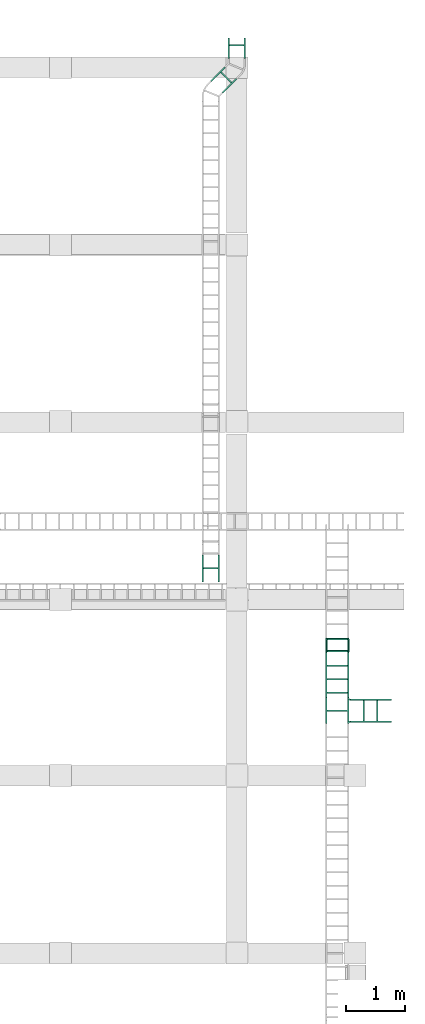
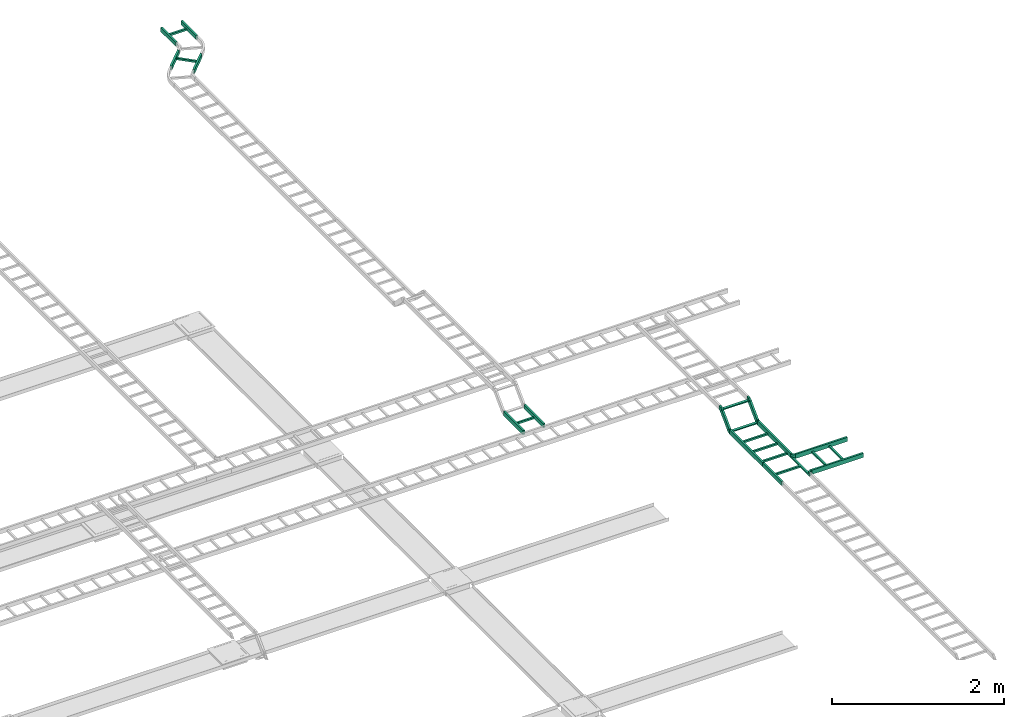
# One storey, part 15 of 16: 6 flow segments, 3 flow fittings.
"""IFC2X3 building model written with IfcOpenShell, lengths in millimetres."""

from ifc_helpers import new_model, entity, si_unit, converted_unit, derived_unit, direction, frame, origin_with_axes, place, context, subcontext, project, spatial, open_shell, surface_model, source, transform, mapped, type_object, element, save


model = new_model("IFC2X3")

# Units and contexts
model_context = context("Model", 3, precision=0.01, world=frame((0.0, 4.29681676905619e-09, 0.0)), true_north=direction((4.01073788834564e-13, 1.0)))
plan_context = context("Plan", 3, precision=0.01, world=frame((0.0, 4.29681676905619e-09, 0.0)), true_north=direction((4.01073788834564e-13, 1.0)))
body_context = subcontext(model_context, "Body", "Model", "MODEL_VIEW")
ifc_project = project(units=[converted_unit("PLANEANGLEUNIT", "DEGREE", entity("IfcPositiveLengthMeasure", 0.0174532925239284), si_unit("PLANEANGLEUNIT", "RADIAN"), dimensions=[0, 0, 0, 0, 0, 0, 0]), si_unit("AREAUNIT", "SQUARE_METRE"), si_unit("LENGTHUNIT", "METRE", prefix="MILLI"), si_unit("MASSUNIT", "GRAM", prefix="KILO"), si_unit("POWERUNIT", "WATT"), si_unit("PRESSUREUNIT", "PASCAL"), si_unit("FORCEUNIT", "NEWTON", prefix="KILO"), si_unit("ELECTRICVOLTAGEUNIT", "VOLT"), si_unit("ELECTRICCURRENTUNIT", "AMPERE"), si_unit("THERMODYNAMICTEMPERATUREUNIT", "DEGREE_CELSIUS"), si_unit("TIMEUNIT", "SECOND"), si_unit("VOLUMEUNIT", "CUBIC_METRE"), derived_unit("LINEARVELOCITYUNIT", [(si_unit("LENGTHUNIT", "METRE"), 1), (si_unit("TIMEUNIT", "SECOND"), -1)]), derived_unit("VOLUMETRICFLOWRATEUNIT", [(si_unit("VOLUMEUNIT", "CUBIC_METRE"), 1), (si_unit("TIMEUNIT", "SECOND"), -1)]), derived_unit("THERMALTRANSMITTANCEUNIT", [(si_unit("POWERUNIT", "WATT"), 1), (si_unit("THERMODYNAMICTEMPERATUREUNIT", "KELVIN"), -1), (si_unit("AREAUNIT", "SQUARE_METRE"), -1)]), derived_unit("SOUNDPRESSUREUNIT", [(si_unit("PRESSUREUNIT", "PASCAL"), 1)])], contexts=[model_context, plan_context])

# Site, building, storey
site_placement = place(None, frame((0.0, -4.29681676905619e-09, 0.0), z_axis=(0.0, 0.0, 1.0), x_axis=(1.0, 0.0, 0.0)))
site = spatial("IfcSite", under=ifc_project, at=site_placement, Name="ENGM", CompositionType="ELEMENT")
building_placement = place(site_placement, frame((0.0, 4.29681676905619e-09, 0.0), z_axis=(0.0, 0.0, 1.0), x_axis=(1.0, 0.0, 0.0)))
building = spatial("IfcBuilding", under=site, at=building_placement, Name="TS", CompositionType="ELEMENT")
storey_placement = place(building_placement, frame((0.0, 0.0, 210900.0), z_axis=(0.0, 0.0, 1.0), x_axis=(1.0, 0.0, 0.0)))
storey = spatial("IfcBuildingStorey", under=building, at=storey_placement, Name="Nivå F", CompositionType="ELEMENT", Elevation=210900.0)

# Flow fittings
cable_carrier_fitting_type_1 = type_object("IfcCableCarrierFittingType", Name="Standard 10mm", PredefinedType="BEND")
shared_shape_1 = source(origin_with_axes(), body_context, "Body", "SurfaceModel", [
    surface_model("IfcShellBasedSurfaceModel", [(8.71172, 12.15474, 174.60001), (8.71172, 12.15474, -174.60001), (-1.00844, 35.62128, -174.60001), (-1.00844, 35.62128, 174.60001), (-14.75482, 2.43458, 174.60001), (-14.75482, 2.43458, -174.60001), (-24.47498, 25.90113, -174.60001), (-24.47498, 25.90113, 174.60001), (-26.56854, -30.0, 200.0), (-26.56854, 30.0, 174.60001), (-26.56854, -30.0, 174.60001), (-26.56854, 30.0, 200.0), (-26.56854, 30.0, -174.60001), (-26.56854, 30.0, -200.0), (-26.56854, -30.0, -200.0), (-26.56854, -30.0, -174.60001), (-16.56854, 30.0, 174.60001), (-16.56854, 30.0, 200.0), (-16.56854, -30.0, 174.60001), (-12.74171, 30.7612, 174.60001), (10.2193, -24.67157, 174.60001), (-9.49747, 32.92893, 174.60001), (-2.42641, 40.0, 174.60001), (32.92893, -9.49747, 174.60001), (40.0, -2.42641, 174.60001), (-16.56854, -30.0, 200.0), (-12.74171, 30.7612, 200.0), (10.2193, -24.67157, 200.0), (32.92893, -9.49747, 200.0), (-9.49747, 32.92893, 200.0), (-2.42641, 40.0, 200.0), (40.0, -2.42641, 200.0), (-16.56854, 30.0, -200.0), (-16.56854, 30.0, -174.60001), (-16.56854, -30.0, -200.0), (-12.74171, 30.7612, -200.0), (10.2193, -24.67157, -200.0), (-9.49747, 32.92893, -200.0), (-2.42641, 40.0, -200.0), (32.92893, -9.49747, -200.0), (40.0, -2.42641, -200.0), (-16.56854, -30.0, -174.60001), (-12.74171, 30.7612, -174.60001), (10.2193, -24.67157, -174.60001), (32.92893, -9.49747, -174.60001), (-9.49747, 32.92893, -174.60001), (-2.42641, 40.0, -174.60001), (40.0, -2.42641, -174.60001), (-3.17462, -27.33578, 200.0), (-3.17462, -27.33578, 174.60001), (18.41816, -19.19326, 174.60001), (21.57411, -17.08452, 200.0), (0.54808, -26.59529, -200.0), (-3.17462, -27.33578, -174.60001), (21.57411, -17.08452, -174.60001), (21.57411, -17.08452, -200.0)], [open_shell([[[0, 1, 2]], [[2, 3, 0]], [[1, 0, 4]], [[4, 5, 1]], [[2, 1, 6]], [[5, 6, 1]], [[3, 2, 6]], [[6, 7, 3]], [[0, 3, 7]], [[7, 4, 0]], [[6, 5, 4]], [[4, 7, 6]], [[8, 9, 10]], [[9, 8, 11]], [[12, 13, 14]], [[14, 15, 12]], [[9, 11, 16]], [[17, 16, 11]], [[9, 18, 10]], [[18, 9, 16]], [[18, 16, 19]], [[19, 20, 18]], [[21, 22, 23]], [[21, 23, 20]], [[23, 22, 24]], [[21, 20, 19]], [[8, 10, 18]], [[18, 25, 8]], [[8, 25, 11]], [[17, 11, 25]], [[26, 17, 25]], [[25, 27, 26]], [[27, 28, 29]], [[28, 30, 29]], [[30, 28, 31]], [[27, 29, 26]], [[13, 12, 32]], [[33, 32, 12]], [[13, 34, 14]], [[34, 13, 32]], [[34, 32, 35]], [[35, 36, 34]], [[37, 38, 39]], [[37, 39, 36]], [[39, 38, 40]], [[37, 36, 35]], [[15, 14, 34]], [[34, 41, 15]], [[15, 41, 12]], [[33, 12, 41]], [[42, 33, 41]], [[41, 43, 42]], [[43, 44, 45]], [[44, 46, 45]], [[46, 44, 47]], [[43, 45, 42]], [[26, 16, 17]], [[19, 16, 26]], [[29, 21, 19]], [[26, 29, 19]], [[18, 48, 25]], [[49, 27, 48]], [[27, 49, 20]], [[27, 50, 51]], [[23, 28, 51]], [[50, 27, 20]], [[23, 51, 50]], [[18, 49, 48]], [[33, 35, 32]], [[42, 35, 33]], [[45, 37, 42]], [[35, 42, 37]], [[43, 52, 36]], [[34, 52, 53]], [[41, 34, 53]], [[52, 43, 53]], [[54, 43, 55]], [[39, 44, 54]], [[39, 54, 55]], [[43, 36, 55]], [[24, 22, 30]], [[30, 31, 24]], [[40, 38, 46]], [[46, 47, 40]], [[21, 29, 30]], [[30, 22, 21]], [[28, 23, 31]], [[24, 31, 23]], [[37, 45, 46]], [[46, 38, 37]], [[44, 39, 47]], [[40, 47, 39]]])]),
])
flow_fitting_1_placement = place(storey_placement, frame((535192.55901, 451321.94453, 4125.0), z_axis=(-1.0, 0.0, 0.0), x_axis=(0.0, 0.707106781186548, 0.707106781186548)))
element("IfcFlowFitting", 1, at=flow_fitting_1_placement, inside=storey, type_object=cable_carrier_fitting_type_1, Name="Standard 10mm", context=body_context, shape_type="MappedRepresentation", body=[
    mapped(shared_shape_1, transform((0.0, 0.0, 0.0), scale=1.0)),
])
shared_shape_2 = source(origin_with_axes(), body_context, "Body", "SurfaceModel", [
    surface_model("IfcShellBasedSurfaceModel", [(-9.49747, 32.92893, 174.60001), (32.92893, -9.49747, 174.60001), (10.2193, -24.67157, 174.60001), (-12.74171, 30.7612, 174.60001), (10.2193, -24.67157, 200.0), (32.92893, -9.49747, 200.0), (-9.49747, 32.92893, 200.0), (-12.74171, 30.7612, 200.0), (-9.49747, 32.92893, -200.0), (32.92893, -9.49747, -200.0), (10.2193, -24.67157, -200.0), (-12.74171, 30.7612, -200.0), (10.2193, -24.67157, -174.60001), (32.92893, -9.49747, -174.60001), (-9.49747, 32.92893, -174.60001), (-12.74171, 30.7612, -174.60001), (-16.56854, 30.0, 174.60001), (-16.56854, 30.0, 200.0), (-16.56854, -30.0, 174.60001), (-3.17462, -27.33578, 200.0), (-16.56854, -30.0, 200.0), (-3.17462, -27.33578, 174.60001), (18.41816, -19.19326, 174.60001), (21.57411, -17.08452, 200.0), (-16.56854, 30.0, -174.60001), (-16.56854, 30.0, -200.0), (0.54808, -26.59529, -200.0), (-16.56854, -30.0, -200.0), (-3.17462, -27.33578, -174.60001), (-16.56854, -30.0, -174.60001), (21.57411, -17.08452, -174.60001), (21.57411, -17.08452, -200.0), (12.23241, 3.65505, 174.60001), (21.95257, -19.81149, -174.60001), (12.23241, 3.65505, -174.60001), (21.95257, -19.81149, 174.60001), (-1.51397, -29.53165, -174.60001), (-1.51397, -29.53165, 174.60001), (-11.23413, -6.06511, -174.60001), (-11.23413, -6.06511, 174.60001), (-19.56854, -30.0, 200.0), (-19.56854, 30.0, 174.60001), (-19.56854, -30.0, 174.60001), (-19.56854, 30.0, 200.0), (-19.56854, 30.0, -174.60001), (-19.56854, 30.0, -200.0), (-19.56854, -30.0, -200.0), (-19.56854, -30.0, -174.60001), (-7.37615, 35.05025, 174.60001), (35.05025, -7.37615, 174.60001), (-7.37615, 35.05025, 200.0), (35.05025, -7.37615, 200.0), (-7.37615, 35.05025, -200.0), (35.05025, -7.37615, -200.0), (-7.37615, 35.05025, -174.60001), (35.05025, -7.37615, -174.60001)], [open_shell([[[0, 1, 2]], [[0, 2, 3]], [[4, 5, 6]], [[4, 6, 7]], [[8, 9, 10]], [[8, 10, 11]], [[12, 13, 14]], [[12, 14, 15]], [[7, 16, 17]], [[3, 16, 7]], [[6, 0, 3]], [[7, 6, 3]], [[18, 19, 20]], [[21, 4, 19]], [[4, 21, 2]], [[4, 22, 23]], [[1, 5, 23]], [[22, 4, 2]], [[1, 23, 22]], [[18, 21, 19]], [[24, 11, 25]], [[15, 11, 24]], [[14, 8, 15]], [[11, 15, 8]], [[12, 26, 10]], [[27, 26, 28]], [[29, 27, 28]], [[26, 12, 28]], [[30, 12, 31]], [[9, 13, 30]], [[9, 30, 31]], [[12, 10, 31]], [[32, 33, 34]], [[33, 32, 35]], [[33, 35, 36]], [[37, 36, 35]], [[34, 33, 38]], [[36, 38, 33]], [[32, 34, 39]], [[38, 39, 34]], [[35, 32, 37]], [[39, 37, 32]], [[38, 36, 37]], [[37, 39, 38]], [[40, 41, 42]], [[41, 40, 43]], [[44, 45, 46]], [[46, 47, 44]], [[41, 43, 16]], [[17, 16, 43]], [[41, 18, 42]], [[18, 41, 16]], [[2, 18, 16]], [[16, 3, 2]], [[0, 48, 1]], [[1, 48, 49]], [[40, 42, 18]], [[18, 20, 40]], [[40, 20, 43]], [[17, 43, 20]], [[4, 7, 17]], [[17, 20, 4]], [[5, 50, 6]], [[50, 5, 51]], [[45, 44, 25]], [[24, 25, 44]], [[45, 27, 46]], [[27, 45, 25]], [[10, 27, 25]], [[25, 11, 10]], [[8, 52, 9]], [[9, 52, 53]], [[47, 46, 27]], [[27, 29, 47]], [[47, 29, 44]], [[24, 44, 29]], [[12, 15, 24]], [[24, 29, 12]], [[13, 54, 14]], [[54, 13, 55]], [[49, 48, 50]], [[50, 51, 49]], [[53, 52, 54]], [[54, 55, 53]], [[0, 6, 50]], [[50, 48, 0]], [[5, 1, 49]], [[49, 51, 5]], [[8, 14, 54]], [[54, 52, 8]], [[13, 9, 55]], [[53, 55, 9]]])]),
])
flow_fitting_2_placement = place(storey_placement, frame((535192.55901, 451121.94453, 3925.0), z_axis=(-1.0, 0.0, 0.0), x_axis=(0.0, -0.707106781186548, -0.707106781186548)))
element("IfcFlowFitting", 2, at=flow_fitting_2_placement, inside=storey, type_object=cable_carrier_fitting_type_1, Name="Standard 10mm", context=body_context, shape_type="MappedRepresentation", body=[
    mapped(shared_shape_2, transform((0.0, 0.0, 0.0), scale=1.0)),
])
cable_carrier_fitting_type_2 = type_object("IfcCableCarrierFittingType", Name="10mm Radius", PredefinedType="TEE")
shared_shape_3 = source(origin_with_axes(), body_context, "Body", "SurfaceModel", [
    surface_model("IfcShellBasedSurfaceModel", [(-201.33975, -205.0, -30.0), (-201.33975, -205.0, 30.0), (-202.92893, -202.92893, -30.0), (-200.34073, -207.41181, 30.0), (-200.34073, -207.41181, -30.0), (201.33975, -205.0, 30.0), (200.34073, -207.41181, 30.0), (201.33975, -205.0, -30.0), (200.34073, -207.41181, -30.0), (202.92893, -202.92893, -30.0), (202.92893, -202.92893, 30.0), (12.7, -174.60001, -4.6), (12.7, 174.60001, -4.6), (-12.7, 174.60001, -4.6), (-12.7, -174.60001, -4.6), (-12.7, -174.60001, -30.0), (-12.7, 174.60001, -30.0), (12.7, -174.60001, -30.0), (12.7, 174.60001, -30.0), (-210.0, -174.60001, 30.0), (-220.0, -174.60001, 30.0), (-210.0, -200.0, 30.0), (-220.0, -200.0, 30.0), (-207.41181, -200.34073, 30.0), (-205.0, -201.33975, 30.0), (-192.3, -179.34271, 30.0), (-200.83781, -175.80622, 30.0), (-179.34271, -192.3, 30.0), (-184.96842, -184.96842, 30.0), (-202.92893, -202.92893, 30.0), (-175.80622, -200.83781, 30.0), (-174.60001, -210.0, 30.0), (-200.0, -210.0, 30.0), (-200.0, -220.0, 30.0), (-174.60001, -220.0, 30.0), (205.0, -201.33975, 30.0), (207.41181, -200.34073, 30.0), (200.83781, -175.80622, 30.0), (192.3, -179.34271, 30.0), (184.96842, -184.96842, 30.0), (220.0, -174.60001, 30.0), (210.0, -174.60001, 30.0), (210.0, -200.0, 30.0), (220.0, -200.0, 30.0), (179.34271, -192.3, 30.0), (175.80622, -200.83781, 30.0), (174.60001, -210.0, 30.0), (200.0, -210.0, 30.0), (174.60001, -220.0, 30.0), (200.0, -220.0, 30.0), (220.0, 200.0, 30.0), (-220.0, 200.0, 30.0), (-220.0, 174.60001, 30.0), (220.0, 174.60001, 30.0), (-200.0, -220.0, -30.0), (-200.0, -210.0, -30.0), (-174.60001, -220.0, -30.0), (-174.60001, -210.0, -30.0), (-174.96527, -204.92777, -30.0), (-176.0418, -200.0, -30.0), (200.0, -220.0, -30.0), (174.60001, -220.0, -30.0), (200.0, -210.0, -30.0), (174.60001, -210.0, -30.0), (174.96527, -204.92777, -30.0), (176.0418, -200.0, -30.0), (-205.0, -201.33975, -30.0), (-207.41181, -200.34073, -30.0), (-220.0, -174.60001, -30.0), (-220.0, -200.0, -30.0), (-210.0, -200.0, -30.0), (220.0, -174.60001, -30.0), (205.0, -201.33975, -30.0), (207.41181, -200.34073, -30.0), (210.0, -200.0, -30.0), (220.0, -200.0, -30.0), (220.0, 174.60001, -30.0), (-220.0, 174.60001, -30.0), (-220.0, 200.0, -30.0), (220.0, 200.0, -30.0), (-176.0418, -200.0, -4.6), (-179.69674, -191.70049, -4.6), (-185.34038, -184.60192, -4.6), (-192.60234, -179.17013, -4.6), (-201.00604, -175.76158, -4.6), (-210.0, -174.60001, -4.6), (210.0, -174.60001, -4.6), (-210.0, -200.0, -4.6), (210.0, -200.0, -4.6), (201.00604, -175.76158, -4.6), (192.60234, -179.17013, -4.6), (185.34038, -184.60192, -4.6), (179.69674, -191.70049, -4.6), (176.0418, -200.0, -4.6)], [open_shell([[[0, 1, 2]], [[3, 0, 4]], [[5, 6, 7]], [[6, 8, 7]], [[5, 7, 9]], [[9, 10, 5]], [[11, 12, 13]], [[13, 14, 11]], [[15, 16, 17]], [[18, 17, 16]], [[13, 12, 16]], [[18, 16, 12]], [[14, 13, 16]], [[16, 15, 14]], [[11, 14, 17]], [[15, 17, 14]], [[12, 11, 17]], [[17, 18, 12]], [[19, 20, 21]], [[22, 21, 20]], [[19, 21, 23]], [[24, 25, 26]], [[27, 28, 29]], [[25, 29, 28]], [[26, 23, 24]], [[26, 19, 23]], [[1, 27, 29]], [[1, 3, 30]], [[1, 30, 27]], [[30, 3, 31]], [[32, 33, 34]], [[32, 34, 31]], [[3, 32, 31]], [[29, 25, 24]], [[35, 36, 37]], [[35, 37, 38]], [[38, 39, 10]], [[40, 41, 42]], [[36, 42, 41]], [[42, 43, 40]], [[41, 37, 36]], [[39, 44, 10]], [[6, 45, 46]], [[47, 48, 49]], [[48, 47, 46]], [[6, 46, 47]], [[35, 38, 10]], [[6, 5, 45]], [[44, 5, 10]], [[44, 45, 5]], [[50, 51, 52]], [[52, 53, 50]], [[54, 55, 56]], [[56, 55, 57]], [[58, 4, 59]], [[57, 55, 58]], [[4, 0, 59]], [[58, 55, 4]], [[60, 61, 62]], [[62, 61, 63]], [[64, 8, 62]], [[65, 7, 8]], [[8, 64, 65]], [[64, 62, 63]], [[66, 67, 68]], [[2, 66, 59]], [[69, 68, 70]], [[68, 67, 70]], [[66, 68, 59]], [[68, 71, 59]], [[72, 9, 65]], [[73, 72, 71]], [[73, 71, 74]], [[71, 72, 65]], [[71, 75, 74]], [[65, 59, 71]], [[7, 65, 9]], [[0, 2, 59]], [[76, 77, 78]], [[78, 79, 76]], [[33, 32, 54]], [[55, 54, 32]], [[34, 33, 54]], [[54, 56, 34]], [[31, 34, 57]], [[56, 57, 34]], [[31, 57, 58]], [[59, 80, 58]], [[31, 58, 80]], [[31, 80, 30]], [[27, 81, 28]], [[27, 30, 80]], [[81, 27, 80]], [[82, 83, 25]], [[84, 85, 19]], [[83, 84, 26]], [[28, 82, 25]], [[25, 83, 26]], [[84, 19, 26]], [[82, 28, 81]], [[41, 40, 86]], [[20, 19, 85]], [[86, 71, 68]], [[71, 86, 40]], [[85, 68, 20]], [[68, 85, 86]], [[22, 20, 68]], [[68, 69, 22]], [[21, 22, 87]], [[87, 69, 70]], [[69, 87, 22]], [[23, 21, 87]], [[24, 23, 87]], [[67, 87, 70]], [[87, 67, 66]], [[2, 87, 66]], [[29, 24, 87]], [[1, 29, 2]], [[0, 3, 1]], [[3, 4, 32]], [[32, 4, 55]], [[87, 2, 29]], [[6, 47, 8]], [[8, 47, 62]], [[35, 10, 88]], [[88, 36, 35]], [[36, 88, 42]], [[88, 72, 73]], [[73, 74, 88]], [[72, 88, 9]], [[10, 9, 88]], [[43, 42, 88]], [[88, 74, 75]], [[88, 75, 43]], [[40, 43, 75]], [[75, 71, 40]], [[41, 86, 89]], [[37, 89, 90]], [[38, 90, 91]], [[41, 89, 37]], [[37, 90, 38]], [[91, 39, 38]], [[91, 92, 39]], [[93, 65, 64]], [[93, 64, 46]], [[46, 64, 63]], [[92, 44, 39]], [[92, 93, 44]], [[44, 93, 45]], [[93, 46, 45]], [[48, 46, 63]], [[63, 61, 48]], [[49, 48, 61]], [[61, 60, 49]], [[47, 49, 60]], [[60, 62, 47]], [[51, 50, 79]], [[79, 78, 51]], [[52, 51, 78]], [[78, 77, 52]], [[53, 52, 77]], [[77, 76, 53]], [[50, 53, 76]], [[76, 79, 50]], [[89, 86, 84]], [[90, 89, 84]], [[92, 91, 82]], [[93, 92, 81]], [[90, 83, 91]], [[84, 83, 90]], [[85, 84, 86]], [[81, 80, 93]], [[82, 81, 92]], [[83, 82, 91]], [[93, 80, 65]], [[59, 65, 80]]])]),
])
flow_fitting_3_placement = place(storey_placement, frame((535192.55901, 450115.21064, 3925.0), z_axis=(0.0, 0.0, 1.0), x_axis=(0.0, 1.0, 0.0)))
element("IfcFlowFitting", 3, at=flow_fitting_3_placement, inside=storey, type_object=cable_carrier_fitting_type_2, Name="10mm Radius", context=body_context, shape_type="MappedRepresentation", body=[
    mapped(shared_shape_3, transform((0.0, 0.0, 0.0), scale=1.0)),
])

# Flow segments
cable_carrier_segment_type = type_object("IfcCableCarrierSegmentType", Name="Kabelbro", PredefinedType="CABLELADDERSEGMENT")
shared_shape_4 = source(origin_with_axes(), body_context, "Body", "SurfaceModel", [
    surface_model("IfcShellBasedSurfaceModel", [(0.0, -174.60001, -30.0), (0.0, -200.0, -30.0), (0.0, -200.0, 30.0), (0.0, -174.60001, 30.0), (0.0, 200.0, -30.0), (0.0, 174.60001, -30.0), (0.0, 174.60001, 30.0), (0.0, 200.0, 30.0), (236.70563, -174.60001, -30.0), (236.70563, -174.60001, 30.0), (236.70563, -200.0, 30.0), (236.70563, -200.0, -30.0), (236.70563, 200.0, -30.0), (236.70563, 200.0, 30.0), (236.70563, 174.60001, 30.0), (236.70563, 174.60001, -30.0)], [open_shell([[[0, 1, 2]], [[2, 3, 0]], [[4, 5, 6]], [[6, 7, 4]], [[8, 9, 10]], [[10, 11, 8]], [[12, 13, 14]], [[14, 15, 12]], [[2, 1, 11]], [[11, 10, 2]], [[3, 2, 10]], [[10, 9, 3]], [[0, 3, 9]], [[9, 8, 0]], [[1, 0, 8]], [[8, 11, 1]], [[4, 7, 13]], [[13, 12, 4]], [[5, 4, 12]], [[12, 15, 5]], [[6, 5, 15]], [[15, 14, 6]], [[7, 6, 14]], [[14, 13, 7]]])]),
])
flow_segment_1_placement = place(storey_placement, frame((535192.55901, 451135.78158, 3938.83705), z_axis=(0.0, -0.707106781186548, 0.707106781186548), x_axis=(0.0, 0.707106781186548, 0.707106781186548)))
element("IfcFlowSegment", 4, at=flow_segment_1_placement, inside=storey, type_object=cable_carrier_segment_type, Name="Kabelbro", context=body_context, shape_type="MappedRepresentation", body=[
    mapped(shared_shape_4, transform((0.0, 0.0, 0.0), scale=1.0)),
])
shared_shape_5 = source(origin_with_axes(), body_context, "Body", "SurfaceModel", [
    surface_model("IfcShellBasedSurfaceModel", [(0.0, -124.6, -30.0), (0.0, -150.0, -30.0), (0.0, -150.0, 30.0), (0.0, -124.6, 30.0), (0.0, 150.0, -30.0), (0.0, 124.6, -30.0), (0.0, 124.6, 30.0), (0.0, 150.0, 30.0), (241.30001, -124.6, -4.6), (241.30001, -124.6, -30.0), (241.30001, 124.6, -30.0), (241.30001, 124.6, -4.6), (215.89999, -124.6, -30.0), (215.89999, -124.6, -4.6), (215.89999, 124.6, -4.6), (215.89999, 124.6, -30.0), (338.0951, -124.6, -30.0), (338.0951, -124.6, 30.0), (338.0951, -150.0, 30.0), (338.0951, -150.0, -30.0), (338.0951, 150.0, -30.0), (338.0951, 150.0, 30.0), (338.0951, 124.6, 30.0), (338.0951, 124.6, -30.0)], [open_shell([[[0, 1, 2]], [[2, 3, 0]], [[4, 5, 6]], [[6, 7, 4]], [[8, 9, 10]], [[10, 11, 8]], [[12, 13, 14]], [[14, 15, 12]], [[12, 9, 8]], [[8, 13, 12]], [[11, 10, 15]], [[15, 14, 11]], [[13, 8, 11]], [[11, 14, 13]], [[9, 12, 15]], [[15, 10, 9]], [[16, 17, 18]], [[18, 19, 16]], [[20, 21, 22]], [[22, 23, 20]], [[2, 1, 19]], [[19, 18, 2]], [[3, 2, 17]], [[18, 17, 2]], [[0, 3, 17]], [[17, 16, 0]], [[1, 0, 19]], [[16, 19, 0]], [[4, 7, 21]], [[21, 20, 4]], [[5, 4, 23]], [[20, 23, 4]], [[6, 5, 23]], [[23, 22, 6]], [[7, 6, 21]], [[22, 21, 6]]])]),
])
flow_segment_2_placement = place(storey_placement, frame((533150.3034, 460670.85232, 3925.0), z_axis=(0.0, 0.0, 1.0), x_axis=(0.707106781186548, 0.707106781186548, 0.0)))
element("IfcFlowSegment", 5, at=flow_segment_2_placement, inside=storey, type_object=cable_carrier_segment_type, Name="Kabelbro", context=body_context, shape_type="MappedRepresentation", body=[
    mapped(shared_shape_5, transform((0.0, 0.0, 0.0), scale=1.0)),
])
shared_shape_6 = source(origin_with_axes(), body_context, "Body", "SurfaceModel", [
    surface_model("IfcShellBasedSurfaceModel", [(241.30001, -124.6, -4.6), (241.30001, -124.6, -30.0), (241.30001, 124.6, -30.0), (241.30001, 124.6, -4.6), (215.89999, -124.6, -4.6), (215.89999, 124.6, -4.6), (215.89999, -124.6, -30.0), (215.89999, 124.6, -30.0), (0.0, -124.6, 30.0), (0.0, -124.6, -30.0), (0.0, -150.0, -30.0), (0.0, -150.0, 30.0), (0.0, 150.0, 30.0), (0.0, 150.0, -30.0), (0.0, 124.6, -30.0), (0.0, 124.6, 30.0), (351.45377, -150.0, -30.0), (351.45377, -124.6, -30.0), (351.45377, -124.6, 30.0), (351.45377, -150.0, 30.0), (351.45377, 124.6, -30.0), (351.45377, 150.0, -30.0), (351.45377, 150.0, 30.0), (351.45377, 124.6, 30.0)], [open_shell([[[0, 1, 2]], [[2, 3, 0]], [[4, 0, 5]], [[3, 5, 0]], [[6, 4, 5]], [[5, 7, 6]], [[1, 6, 2]], [[7, 2, 6]], [[8, 9, 10]], [[10, 11, 8]], [[12, 13, 14]], [[14, 15, 12]], [[6, 1, 0]], [[0, 4, 6]], [[3, 2, 7]], [[7, 5, 3]], [[16, 17, 18]], [[18, 19, 16]], [[20, 21, 22]], [[22, 23, 20]], [[11, 10, 16]], [[16, 19, 11]], [[8, 11, 19]], [[19, 18, 8]], [[9, 8, 18]], [[18, 17, 9]], [[10, 9, 17]], [[17, 16, 10]], [[13, 12, 22]], [[22, 21, 13]], [[14, 13, 21]], [[21, 20, 14]], [[15, 14, 20]], [[20, 23, 15]], [[12, 15, 23]], [[23, 22, 12]]])]),
])
flow_segment_3_placement = place(storey_placement, frame((533490.16815, 461153.26332, 3925.0), z_axis=(0.0, 0.0, 1.0), x_axis=(0.0, 1.0, 0.0)))
element("IfcFlowSegment", 6, at=flow_segment_3_placement, inside=storey, type_object=cable_carrier_segment_type, Name="Kabelbro", context=body_context, shape_type="MappedRepresentation", body=[
    mapped(shared_shape_6, transform((0.0, 0.0, 0.0), scale=1.0)),
])
shared_shape_7 = source(origin_with_axes(), body_context, "Body", "SurfaceModel", [
    surface_model("IfcShellBasedSurfaceModel", [(241.30001, -124.6, -4.6), (241.30001, -124.6, -30.0), (241.30001, 124.6, -30.0), (241.30001, 124.6, -4.6), (215.89999, -124.6, -4.6), (215.89999, 124.6, -4.6), (215.89999, -124.6, -30.0), (215.89999, 124.6, -30.0), (0.0, -124.6, 30.0), (0.0, -124.6, -30.0), (0.0, -150.0, -30.0), (0.0, -150.0, 30.0), (0.0, 150.0, 30.0), (0.0, 150.0, -30.0), (0.0, 124.6, -30.0), (0.0, 124.6, 30.0), (455.43147, -124.6, 30.0), (455.43147, -150.0, 30.0), (455.43147, -150.0, -30.0), (455.43147, -124.6, -30.0), (455.43147, 150.0, 30.0), (455.43147, 124.6, 30.0), (455.43147, 124.6, -30.0), (455.43147, 150.0, -30.0)], [open_shell([[[0, 1, 2]], [[2, 3, 0]], [[4, 0, 5]], [[3, 5, 0]], [[6, 4, 5]], [[5, 7, 6]], [[1, 6, 2]], [[7, 2, 6]], [[8, 9, 10]], [[10, 11, 8]], [[12, 13, 14]], [[14, 15, 12]], [[6, 1, 0]], [[0, 4, 6]], [[3, 2, 7]], [[7, 5, 3]], [[16, 17, 18]], [[18, 19, 16]], [[20, 21, 22]], [[22, 23, 20]], [[11, 10, 17]], [[18, 17, 10]], [[8, 11, 16]], [[17, 16, 11]], [[9, 8, 19]], [[16, 19, 8]], [[10, 9, 18]], [[19, 18, 9]], [[13, 12, 23]], [[20, 23, 12]], [[14, 13, 22]], [[23, 22, 13]], [[15, 14, 21]], [[22, 21, 14]], [[12, 15, 20]], [[21, 20, 15]]])]),
])
flow_segment_4_placement = place(storey_placement, frame((533049.50798, 452750.48836, 3925.0), z_axis=(0.0, 0.0, 1.0), x_axis=(0.0, -1.0, 0.0)))
element("IfcFlowSegment", 7, at=flow_segment_4_placement, inside=storey, type_object=cable_carrier_segment_type, Name="Kabelbro", context=body_context, shape_type="MappedRepresentation", body=[
    mapped(shared_shape_7, transform((0.0, 0.0, 0.0), scale=1.0)),
])
shared_shape_8 = source(origin_with_axes(), body_context, "Body", "SurfaceModel", [
    surface_model("IfcShellBasedSurfaceModel", [(241.30001, -174.60001, -4.6), (241.30001, -174.60001, -30.0), (241.30001, 174.60001, -30.0), (241.30001, 174.60001, -4.6), (215.89999, -174.60001, -4.6), (215.89999, 174.60001, -4.6), (215.89999, -174.60001, -30.0), (215.89999, 174.60001, -30.0), (469.89999, -174.60001, -4.6), (469.89999, -174.60001, -30.0), (469.89999, 174.60001, -30.0), (469.89999, 174.60001, -4.6), (444.50001, -174.60001, -4.6), (444.50001, 174.60001, -4.6), (444.50001, -174.60001, -30.0), (444.50001, 174.60001, -30.0), (0.0, -174.60001, -30.0), (0.0, -200.0, -30.0), (0.0, -200.0, 30.0), (0.0, -174.60001, 30.0), (0.0, 200.0, -30.0), (0.0, 174.60001, -30.0), (0.0, 174.60001, 30.0), (0.0, 200.0, 30.0), (695.14434, -200.0, 30.0), (695.14434, -200.0, -30.0), (695.14434, -174.60001, -30.0), (695.14434, -174.60001, 30.0), (695.14434, 174.60001, 30.0), (695.14434, 174.60001, -30.0), (695.14434, 200.0, -30.0), (695.14434, 200.0, 30.0)], [open_shell([[[0, 1, 2]], [[2, 3, 0]], [[4, 0, 5]], [[3, 5, 0]], [[6, 4, 5]], [[5, 7, 6]], [[1, 6, 2]], [[7, 2, 6]], [[8, 9, 10]], [[10, 11, 8]], [[12, 8, 13]], [[11, 13, 8]], [[14, 12, 13]], [[13, 15, 14]], [[9, 14, 10]], [[15, 10, 14]], [[16, 17, 18]], [[18, 19, 16]], [[20, 21, 22]], [[22, 23, 20]], [[1, 0, 4]], [[4, 6, 1]], [[5, 3, 2]], [[2, 7, 5]], [[9, 8, 12]], [[12, 14, 9]], [[13, 11, 10]], [[10, 15, 13]], [[24, 25, 26]], [[26, 27, 24]], [[28, 29, 30]], [[30, 31, 28]], [[18, 17, 24]], [[25, 24, 17]], [[19, 18, 24]], [[24, 27, 19]], [[16, 19, 26]], [[27, 26, 19]], [[17, 16, 26]], [[26, 25, 17]], [[20, 23, 30]], [[31, 30, 23]], [[21, 20, 30]], [[30, 29, 21]], [[22, 21, 28]], [[29, 28, 21]], [[23, 22, 28]], [[28, 31, 23]]])]),
])
flow_segment_5_placement = place(storey_placement, frame((535412.55901, 450115.21064, 3925.0), z_axis=(0.0, 0.0, 1.0), x_axis=(1.0, 0.0, 0.0)))
element("IfcFlowSegment", 8, at=flow_segment_5_placement, inside=storey, type_object=cable_carrier_segment_type, Name="Kabelbro", context=body_context, shape_type="MappedRepresentation", body=[
    mapped(shared_shape_8, transform((0.0, 0.0, 0.0), scale=1.0)),
])
shared_shape_9 = source(origin_with_axes(), body_context, "Body", "SurfaceModel", [
    surface_model("IfcShellBasedSurfaceModel", [(0.0, -174.60001, 30.0), (0.0, -174.60001, -30.0), (0.0, -200.0, -30.0), (0.0, -200.0, 30.0), (0.0, 200.0, 30.0), (0.0, 200.0, -30.0), (0.0, 174.60001, -30.0), (0.0, 174.60001, 30.0), (215.89999, -174.60001, -30.0), (241.30001, -174.60001, -30.0), (241.30001, -174.60001, -4.6), (215.89999, -174.60001, -4.6), (241.30001, 174.60001, -4.6), (241.30001, 174.60001, -30.0), (215.89999, 174.60001, -30.0), (215.89999, 174.60001, -4.6), (444.50001, -174.60001, -30.0), (469.89999, -174.60001, -30.0), (469.89999, -174.60001, -4.6), (444.50001, -174.60001, -4.6), (469.89999, 174.60001, -4.6), (469.89999, 174.60001, -30.0), (444.50001, 174.60001, -30.0), (444.50001, 174.60001, -4.6), (673.09998, -174.60001, -30.0), (698.50002, -174.60001, -30.0), (698.50002, -174.60001, -4.6), (673.09998, -174.60001, -4.6), (698.50002, 174.60001, -4.6), (698.50002, 174.60001, -30.0), (673.09998, 174.60001, -30.0), (673.09998, 174.60001, -4.6), (767.16531, -174.60001, 30.0), (767.16531, -200.0, 30.0), (767.16531, -200.0, -30.0), (767.16531, -174.60001, -30.0), (767.16531, 200.0, 30.0), (767.16531, 174.60001, 30.0), (767.16531, 174.60001, -30.0), (767.16531, 200.0, -30.0)], [open_shell([[[0, 1, 2]], [[2, 3, 0]], [[4, 5, 6]], [[6, 7, 4]], [[8, 9, 10]], [[10, 11, 8]], [[12, 13, 14]], [[14, 15, 12]], [[10, 9, 13]], [[13, 12, 10]], [[11, 10, 15]], [[12, 15, 10]], [[8, 11, 15]], [[15, 14, 8]], [[9, 8, 13]], [[14, 13, 8]], [[16, 17, 18]], [[18, 19, 16]], [[20, 21, 22]], [[22, 23, 20]], [[18, 17, 21]], [[21, 20, 18]], [[19, 18, 23]], [[20, 23, 18]], [[16, 19, 23]], [[23, 22, 16]], [[17, 16, 21]], [[22, 21, 16]], [[24, 25, 26]], [[26, 27, 24]], [[28, 29, 30]], [[30, 31, 28]], [[26, 25, 29]], [[29, 28, 26]], [[27, 26, 31]], [[28, 31, 26]], [[24, 27, 31]], [[31, 30, 24]], [[25, 24, 29]], [[30, 29, 24]], [[32, 33, 34]], [[34, 35, 32]], [[36, 37, 38]], [[38, 39, 36]], [[3, 2, 33]], [[34, 33, 2]], [[0, 3, 32]], [[33, 32, 3]], [[1, 0, 35]], [[32, 35, 0]], [[2, 1, 34]], [[35, 34, 1]], [[5, 4, 39]], [[36, 39, 4]], [[6, 5, 38]], [[39, 38, 5]], [[7, 6, 37]], [[38, 37, 6]], [[4, 7, 36]], [[37, 36, 7]]])]),
])
flow_segment_6_placement = place(storey_placement, frame((535192.55901, 451102.37599, 3925.0), z_axis=(0.0, 0.0, 1.0), x_axis=(0.0, -1.0, 0.0)))
element("IfcFlowSegment", 9, at=flow_segment_6_placement, inside=storey, type_object=cable_carrier_segment_type, Name="Kabelbro", context=body_context, shape_type="MappedRepresentation", body=[
    mapped(shared_shape_9, transform((0.0, 0.0, 0.0), scale=1.0)),
])

save(model, "model.ifc")
